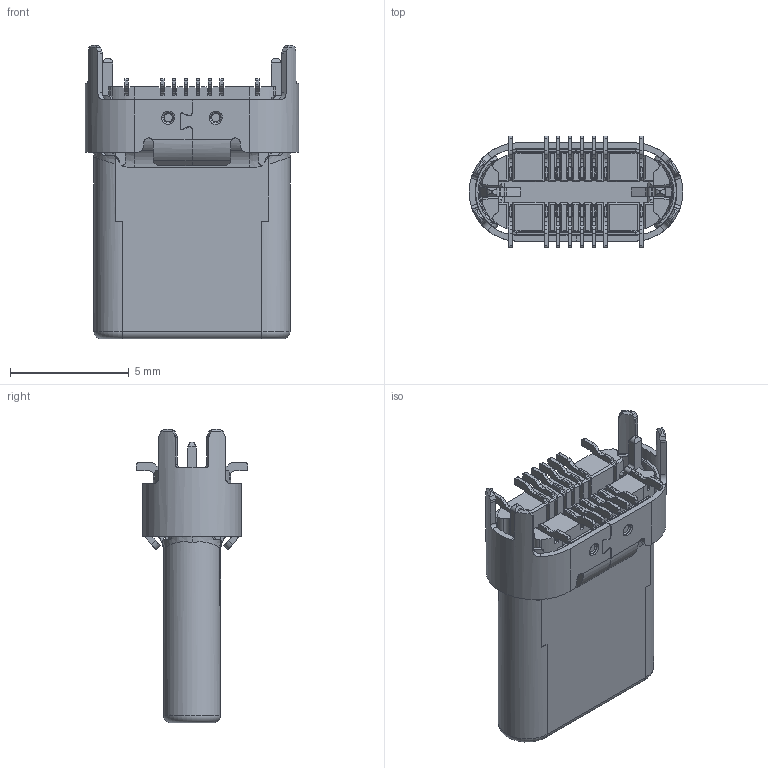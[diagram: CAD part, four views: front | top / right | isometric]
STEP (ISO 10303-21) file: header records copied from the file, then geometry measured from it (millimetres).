
FILE_DESCRIPTION((''),'2;1');
FILE_NAME('16P-10_9','2021-08-30T15:53:56',('Administrator'),(''),'CREO PARAMETRIC BY PTC INC, 2016510','CREO PARAMETRIC BY PTC INC, 2016510','');
FILE_SCHEMA(('CONFIG_CONTROL_DESIGN'));
Length unit declared in the file: millimetre
Products named in the file (1): 16P-10_9
Bounding box: 9 x 4.7 x 12.35 mm (x, y, z)
Volume: 15 mm3; surface area: 982.2 mm2
Topology: 1 solids, 2 shells, 2169 faces, 6639 edges, 4394 vertices
Faces by surface type: plane 1461, cylinder 574, bspline 65, torus 42, cone 27
Entity records: 77911 total; most frequent: CARTESIAN_POINT 18422, ORIENTED_EDGE 13269, DIRECTION 11514, EDGE_CURVE 6638, VECTOR 4916, LINE 4916, VERTEX_POINT 4394, AXIS2_PLACEMENT_3D 3299
